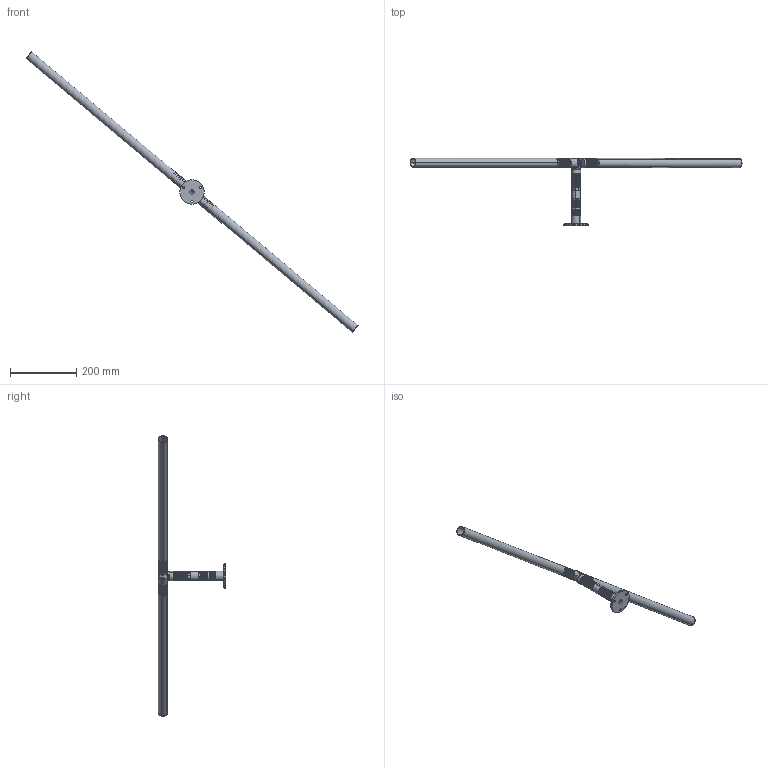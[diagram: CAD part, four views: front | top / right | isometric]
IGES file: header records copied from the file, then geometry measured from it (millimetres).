
Start section: SolidWorks IGES file using analytic representation for surfaces
Global section: file name: \\SERVER3\Design\_NEWDE~1\_DESIG~1\AAI\MODULA~1\SOLIDW~1\DEMONS~1\25DBF2~1.ASS\MODULA~1\650A7~1.TRI\TRIPLE~2\Single Sided Clevis to Male with Threaded End and Flange Connector to Single Sided Clevis.IGS; native system: SolidWorks 2013; preprocessor: SolidWorks 2013; author: tbraun; date: 130819.111843; units: inch
Bounding box: 999.16 x 203.92 x 844.11 mm (x, y, z)
Surface area: 284756.9 mm2 (no closed solid volume)
Topology: 0 solids, 0 shells, 1136 faces, 14749 edges, 14742 vertices
Faces by surface type: revolution 638, bspline 498
